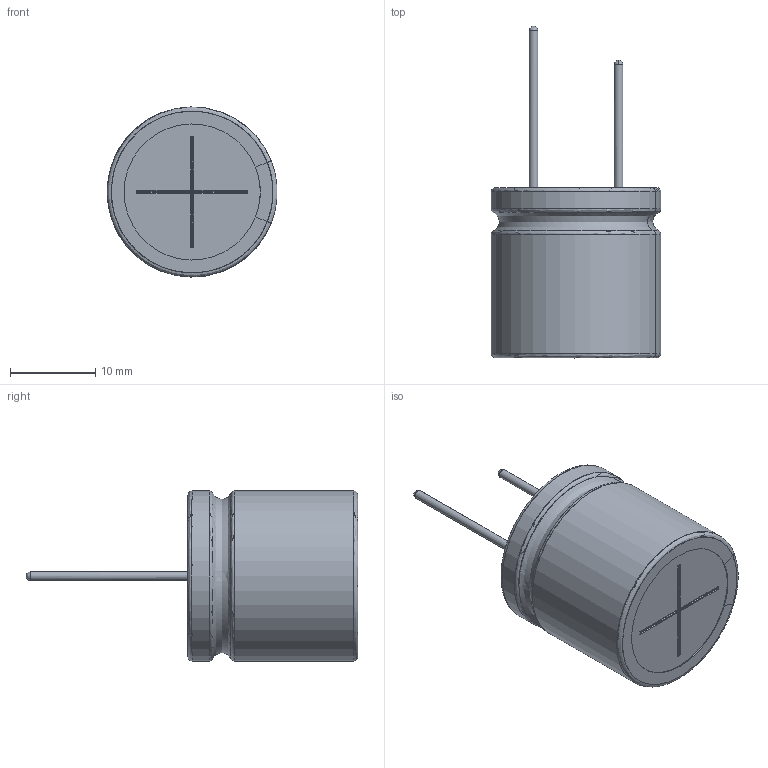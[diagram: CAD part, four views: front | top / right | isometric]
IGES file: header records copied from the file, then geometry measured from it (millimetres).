
Start section: JAMA-IS VERSION  1.0
Bounding box: 19.97 x 39 x 20 mm (x, y, z)
Surface area: 4956.4 mm2 (no closed solid volume)
Topology: 0 solids, 0 shells, 100 faces, 1336 edges, 1316 vertices
Faces by surface type: bspline 100
